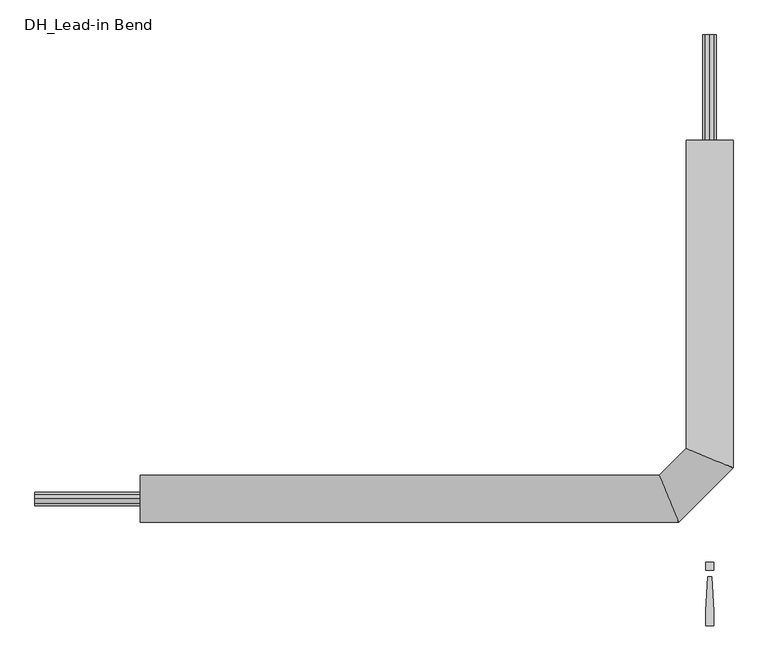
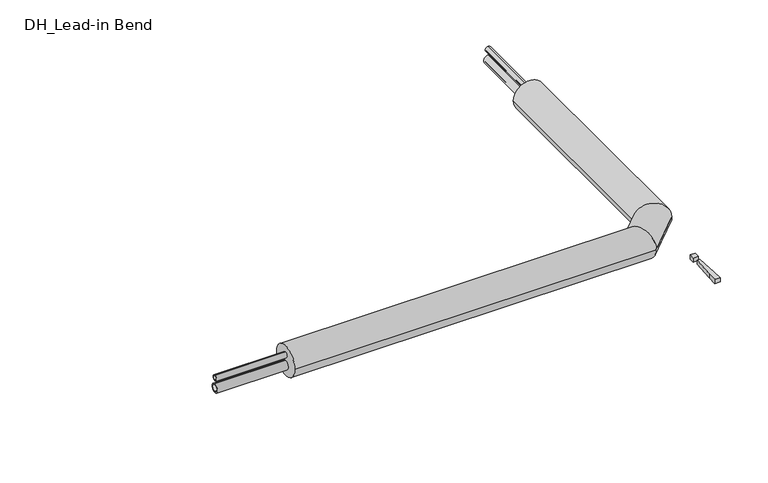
"""IFC4 building model written with IfcOpenShell, lengths in millimetres: pipe fitting geometry, DH_Lead-in Bend : RVT/RVX/RTX DUO 7.4 DW Horizontal."""

import ifcopenshell
import ifcopenshell.guid

model = None  # the IFC model being written
_history = None  # IfcOwnerHistory: only IFC2X3 demands one
_inside = {}  # id of a spatial element -> (the spatial element, [elements in it])
_under = {}  # id of a project, library or spatial element -> (it, [spatial elements below it])
_declared = {}  # id of a project -> (the project, [libraries it declares])
_typed = {}  # id of a type object -> (the type object, [elements of that type])
_made_of = {}  # id of a material, layer set ... -> (it, [elements and type objects made of it])


def new_model(schema):
    """Start an empty IFC model of exactly this schema.

    Asked for "IFC4X3", IfcOpenShell would pick the latest addendum, in which some entities
    have other attributes; the version numbers below select the first issue.
    IFC2X3 requires an IfcOwnerHistory on every rooted entity: one is made here for all.
    """
    global model, _history
    if schema == "IFC4X3":
        model = ifcopenshell.file(schema_version=(4, 3, 0, 0))
    else:
        model = ifcopenshell.file(schema=schema)
    _inside.clear()
    _under.clear()
    _declared.clear()
    _typed.clear()
    _made_of.clear()
    _history = None
    if model.schema == "IFC2X3":
        org = make("IfcOrganization", Name="unknown")
        user = make(
            "IfcPersonAndOrganization",
            ThePerson=make("IfcPerson", FamilyName="unknown"),
            TheOrganization=org,
        )
        app = make(
            "IfcApplication",
            ApplicationDeveloper=org,
            Version="unknown",
            ApplicationFullName="unknown",
            ApplicationIdentifier="unknown",
        )
        _history = make(
            "IfcOwnerHistory",
            OwningUser=user,
            OwningApplication=app,
            ChangeAction="ADDED",
            CreationDate=0,
        )
    return model


def make(cls, **values):
    """One entity of the class cls with the attributes given. An attribute that is None is left unset."""
    return model.create_entity(
        cls, **{name: value for name, value in values.items() if value is not None}
    )


def rooted(cls, **values):
    """An entity with a GlobalId (a new one), such as an element, a storey or a relation."""
    return make(cls, GlobalId=ifcopenshell.guid.new(), OwnerHistory=_history, **values)


def si_unit(unit_type, name, prefix=None):
    """IfcSIUnit, for example si_unit("LENGTHUNIT", "METRE", prefix="MILLI")."""
    return make("IfcSIUnit", UnitType=unit_type, Prefix=prefix, Name=name)


def assignment(units):
    """IfcUnitAssignment: the units of a project."""
    return None if units is None else make("IfcUnitAssignment", Units=units)


def point(xyz):
    """IfcCartesianPoint."""
    return None if xyz is None else make("IfcCartesianPoint", Coordinates=xyz)


def direction(xyz):
    """IfcDirection."""
    return None if xyz is None else make("IfcDirection", DirectionRatios=xyz)


def frame(location, z_axis=None, x_axis=None):
    """IfcAxis2Placement3D, a coordinate frame: its origin and axes. An axis left out is left unset."""
    return make(
        "IfcAxis2Placement3D",
        Location=point(location),
        Axis=direction(z_axis),
        RefDirection=direction(x_axis),
    )


def frame_2d(location, x_axis=None):
    """IfcAxis2Placement2D, a coordinate frame in the plane: its origin and x axis."""
    return make(
        "IfcAxis2Placement2D", Location=point(location), RefDirection=direction(x_axis)
    )


def origin():
    """The frame at (0, 0, 0) with its axes left unset."""
    return frame((0.0, 0.0, 0.0))


def origin_with_axes():
    """The frame at (0, 0, 0) with the z axis (0, 0, 1) and the x axis (1, 0, 0) written out."""
    return frame((0.0, 0.0, 0.0), z_axis=(0.0, 0.0, 1.0), x_axis=(1.0, 0.0, 0.0))


def place(relative_to, where):
    """IfcLocalPlacement: puts the frame where relative to a parent placement (None: the world)."""
    return make(
        "IfcLocalPlacement", PlacementRelTo=relative_to, RelativePlacement=where
    )


def context(
    kind, dimensions, precision=None, world=None, true_north=None, identifier=None
):
    """IfcGeometricRepresentationContext, for example the 3D "Model" context."""
    return make(
        "IfcGeometricRepresentationContext",
        ContextIdentifier=identifier,
        ContextType=kind,
        CoordinateSpaceDimension=dimensions,
        Precision=precision,
        WorldCoordinateSystem=world,
        TrueNorth=true_north,
    )


def project(units=None, contexts=None):
    """IfcProject with its units and contexts."""
    return rooted(
        "IfcProject",
        Name="project",
        RepresentationContexts=contexts,
        UnitsInContext=assignment(units),
    )


def spatial(cls, under=None, at=None, **own):
    """A site, building, storey or space (cls), placed at a placement, below another one or the project."""
    s = rooted(cls, ObjectPlacement=at, **own)
    if under is not None:
        _under.setdefault(under.id(), (under, []))[1].append(s)
    return s


def polyline(points):
    """IfcPolyline through the points."""
    return make("IfcPolyline", Points=[point(p) for p in points])


def circle_curve(where, radius):
    """IfcCircle in the frame where."""
    return make("IfcCircle", Position=where, Radius=radius)


def ellipse_curve(where, semi_axis1, semi_axis2):
    """IfcEllipse in the frame where."""
    return make(
        "IfcEllipse", Position=where, SemiAxis1=semi_axis1, SemiAxis2=semi_axis2
    )


def trimmed(basis, trim1, trim2, sense, master):
    """IfcTrimmedCurve: the piece of a basis curve between two trims."""
    return make(
        "IfcTrimmedCurve",
        BasisCurve=basis,
        Trim1=trim1,
        Trim2=trim2,
        SenseAgreement=sense,
        MasterRepresentation=master,
    )


def segment(curve, same_sense, transition):
    """IfcCompositeCurveSegment."""
    return make(
        "IfcCompositeCurveSegment",
        Transition=transition,
        SameSense=same_sense,
        ParentCurve=curve,
    )


def composite_curve(segments, self_intersect=None):
    """IfcCompositeCurve: segments joined end to end."""
    return make("IfcCompositeCurve", Segments=segments, SelfIntersect=self_intersect)


def outline(outer, holes=None, kind="AREA"):
    """IfcArbitraryClosedProfileDef: a profile drawn as a closed curve; with holes, ...WithVoids."""
    if holes is None:
        return make("IfcArbitraryClosedProfileDef", ProfileType=kind, OuterCurve=outer)
    return make(
        "IfcArbitraryProfileDefWithVoids",
        ProfileType=kind,
        OuterCurve=outer,
        InnerCurves=holes,
    )


def extrude(swept, where, along, depth):
    """IfcExtrudedAreaSolid: the profile swept, set in the frame where, extruded along a direction by depth."""
    return make(
        "IfcExtrudedAreaSolid",
        SweptArea=swept,
        Position=where,
        ExtrudedDirection=direction(along),
        Depth=depth,
    )


def shape(context_of_items, identifier, shape_type, items):
    """IfcShapeRepresentation: the items that make up one representation, for example the "Body"."""
    return make(
        "IfcShapeRepresentation",
        ContextOfItems=context_of_items,
        RepresentationIdentifier=identifier,
        RepresentationType=shape_type,
        Items=items,
    )


def source(mapping_origin, context_of_items, identifier, shape_type, items):
    """IfcRepresentationMap: a shape defined once, which mapped items show again and again."""
    return make(
        "IfcRepresentationMap",
        MappingOrigin=mapping_origin,
        MappedRepresentation=shape(context_of_items, identifier, shape_type, items),
    )


def transform(
    local_origin,
    x_axis=None,
    y_axis=None,
    z_axis=None,
    scale=None,
    scale2=None,
    scale3=None,
    uniform=True,
):
    """IfcCartesianTransformationOperator3D, or its non-uniform kind. x_axis, y_axis, z_axis: its Axis1, 2, 3."""
    if uniform:
        return make(
            "IfcCartesianTransformationOperator3D",
            Axis1=direction(x_axis),
            Axis2=direction(y_axis),
            LocalOrigin=point(local_origin),
            Scale=scale,
            Axis3=direction(z_axis),
        )
    return make(
        "IfcCartesianTransformationOperator3DnonUniform",
        Axis1=direction(x_axis),
        Axis2=direction(y_axis),
        LocalOrigin=point(local_origin),
        Scale=scale,
        Axis3=direction(z_axis),
        Scale2=scale2,
        Scale3=scale3,
    )


def mapped(mapping_source, mapping_target):
    """IfcMappedItem: shows the shape of a source again, moved by a transform."""
    return make(
        "IfcMappedItem", MappingSource=mapping_source, MappingTarget=mapping_target
    )


def made_of(thing, what):
    """Note that an element or type object is made of a material, layer set ...; save() writes the relation."""
    if what is not None:
        _made_of.setdefault(what.id(), (what, []))[1].append(thing)
    return thing


def element(
    cls,
    number,
    at=None,
    inside=None,
    cuts=None,
    type_object=None,
    material=None,
    context=None,
    identifier="Body",
    shape_type=None,
    held_by="IfcProductDefinitionShape",
    body=None,
    shapes=None,
    **own,
):
    """One element of the class cls, such as IfcWall. Its Tag is "e" and its number.

    at: its placement. inside: the storey or other place that contains it. cuts: it is an
    opening in that element (IfcRelVoidsElement). A single representation is given by context,
    identifier, shape_type and body (its items); several are given by shapes. held_by: the class
    of the entity that holds the representations. save() writes the other relations.
    """
    e = rooted(cls, Tag="e%d" % number, ObjectPlacement=at, **own)
    if body is not None:
        shapes = [shape(context, identifier, shape_type, body)]
    if shapes is not None:
        e.Representation = make(held_by, Representations=shapes)
    if inside is not None:
        _inside.setdefault(inside.id(), (inside, []))[1].append(e)
    if cuts is not None:
        rooted(
            "IfcRelVoidsElement", RelatingBuildingElement=cuts, RelatedOpeningElement=e
        )
    if type_object is not None:
        _typed.setdefault(type_object.id(), (type_object, []))[1].append(e)
    return made_of(e, material)


def aggregate(whole, parts):
    """IfcRelAggregates: a whole, such as a stair, and the parts it consists of."""
    return rooted("IfcRelAggregates", RelatingObject=whole, RelatedObjects=parts)


def save(model, path):
    """Write the relations noted so far, then the file.

    IfcRelAggregates (storeys below a building ...), IfcRelContainedInSpatialStructure (elements
    in a storey), IfcRelDefinesByType, IfcRelAssociatesMaterial and IfcRelDeclares: one each for
    every whole, place, type object, material and project.
    """
    for whole, parts in _under.values():
        aggregate(whole, parts)
    for where, things in _inside.values():
        rooted(
            "IfcRelContainedInSpatialStructure",
            RelatedElements=things,
            RelatingStructure=where,
        )
    for kind, things in _typed.values():
        rooted("IfcRelDefinesByType", RelatedObjects=things, RelatingType=kind)
    for what, things in _made_of.values():
        rooted("IfcRelAssociatesMaterial", RelatedObjects=things, RelatingMaterial=what)
    for by, libraries in _declared.values():
        rooted("IfcRelDeclares", RelatingContext=by, RelatedDefinitions=libraries)
    model.write(path)


def plane_surface(at):
    """IfcPlane: the flat surface through the origin of the frame at, square to its z axis."""
    return make("IfcPlane", Position=at)


def cylinder_surface(at, radius):
    """IfcCylindricalSurface: all points at the distance radius from the z axis of the frame at."""
    return make("IfcCylindricalSurface", Position=at, Radius=radius)


def advanced_brep(points, edges, surfaces, faces):
    """IfcAdvancedBrep: a solid bounded by faces that lie on surfaces and meet in shared edges.

    An edge is (start, end): straight between two places in points (the first is 0);
    or (start, end, curve); or (start, end, curve, False) where it runs against its curve.
    A face is (place in surfaces, loops), or (place, loops, False) where it looks against
    its surface's normal. A loop lists edges by number (the first is 1), with a minus sign
    where the edge is run from its end to its start. The first loop is the outer one.
    """
    corners = [point(p) for p in points]
    vertices = [make("IfcVertexPoint", VertexGeometry=c) for c in corners]
    made = []
    for start, end, *more in edges:
        made.append(
            make(
                "IfcEdgeCurve",
                EdgeStart=vertices[start],
                EdgeEnd=vertices[end],
                EdgeGeometry=more[0] if more else make("IfcPolyline", Points=[corners[start], corners[end]]),
                SameSense=more[1] if len(more) > 1 else True,
            )
        )
    hull = []
    for where, loops, *sense in faces:
        bounds = []
        for j, loop in enumerate(loops):
            ring = [make("IfcOrientedEdge", EdgeElement=made[abs(k) - 1], Orientation=k > 0) for k in loop]
            bounds.append(
                make(
                    "IfcFaceOuterBound" if j == 0 else "IfcFaceBound",
                    Bound=make("IfcEdgeLoop", EdgeList=ring),
                    Orientation=True,
                )
            )
        hull.append(make("IfcAdvancedFace", Bounds=bounds, FaceSurface=surfaces[where], SameSense=sense[0] if sense else True))
    return make("IfcAdvancedBrep", Outer=make("IfcClosedShell", CfsFaces=hull))


def dh_lead_in_bend_81963ebd(model_context):
    return source(origin(), model_context, "Body", "SolidModel", [
        extrude(outline(composite_curve([segment(trimmed(circle_curve(frame_2d((0.0, -16.0)), 16.0), [point((0.0, 0.0))], [point((0.0, -32.0))], False, "CARTESIAN"), True, "CONTINUOUS"), segment(trimmed(circle_curve(frame_2d((0.0, -16.0)), 16.0), [point((0.0, -32.0))], [point((0.0, 0.0))], False, "CARTESIAN"), True, "CONTINUOUS")], self_intersect=False), holes=[composite_curve([segment(trimmed(circle_curve(frame_2d((0.0, -16.0)), 11.6), [point((0.0, -4.4))], [point((0.0, -27.6))], True, "CARTESIAN"), True, "CONTINUOUS"), segment(trimmed(circle_curve(frame_2d((0.0, -16.0)), 11.6), [point((0.0, -27.6))], [point((0.0, -4.4))], True, "CARTESIAN"), True, "CONTINUOUS")], self_intersect=False)]), frame((-1600.0, 0.0, 0.0), z_axis=(1.0, 0.0, 0.0), x_axis=(0.0, 1.0, 0.0)), (0.0, 0.0, 1.0), 250.0),
        advanced_brep(
        [(-1350.0, -55.5, 0.0), (-1350.0, 55.5, 0.0), (-73.5111473, -55.5, 0.0), (-119.4888527, 55.5, 0.0), (55.5, 850.0, 0.0), (-55.5, 850.0, 0.0), (-55.5, 119.4888527, 0.0), (55.5, 73.5111473, 0.0)],
        [
            (0, 1, circle_curve(frame((-1350.0, 0.0, 0.0), z_axis=(-1.0, 0.0, 0.0), x_axis=(0.0, 1.0, 0.0)), 55.5)),
            (1, 0, circle_curve(frame((-1350.0, 0.0, 0.0), z_axis=(-1.0, 0.0, 0.0), x_axis=(0.0, 1.0, 0.0)), 55.5)),
            (0, 2),
            (2, 3, ellipse_curve(frame((-96.5, 0.0, 0.0), z_axis=(-0.9238795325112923, -0.38268343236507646, 0.0), x_axis=(-0.38268343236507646, 0.9238795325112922, 0.0)), 60.0727671, 55.5)),
            (3, 1),
            (3, 2, ellipse_curve(frame((-96.5, 0.0, 0.0), z_axis=(-0.9238795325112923, -0.38268343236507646, 0.0), x_axis=(-0.38268343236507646, 0.9238795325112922, 0.0)), 60.0727671, 55.5)),
            (4, 5, circle_curve(frame((0.0, 850.0, 0.0), z_axis=(0.0, 1.0, 0.0), x_axis=(-1.0, 0.0, 0.0)), 55.5)),
            (5, 4, circle_curve(frame((0.0, 850.0, 0.0), z_axis=(0.0, 1.0, 0.0), x_axis=(-1.0, 0.0, 0.0)), 55.5)),
            (6, 7, ellipse_curve(frame((0.0, 96.5, 0.0), z_axis=(0.3826834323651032, 0.9238795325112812, 0.0), x_axis=(0.9238795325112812, -0.3826834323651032, 0.0)), 60.0727671, 55.5)),
            (7, 4),
            (5, 6),
            (7, 6, ellipse_curve(frame((0.0, 96.5, 0.0), z_axis=(0.3826834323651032, 0.9238795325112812, 0.0), x_axis=(0.9238795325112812, -0.3826834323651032, 0.0)), 60.0727671, 55.5)),
            (2, 7),
            (6, 3),
        ],
        [
            plane_surface(frame((-1350.0, 0.0, 0.0), z_axis=(-1.0, 0.0, 0.0), x_axis=(0.0, 0.0, 1.0))),
            cylinder_surface(frame((-1350.0, 0.0, 0.0), z_axis=(-1.0, 0.0, 0.0), x_axis=(0.0, 1.0, 0.0)), 55.5),
            plane_surface(frame((0.0, 850.0, 0.0), z_axis=(0.0, 1.0, 0.0), x_axis=(0.0, 0.0, 1.0))),
            cylinder_surface(frame((0.0, 96.5, 0.0), z_axis=(0.0, -1.0, 0.0), x_axis=(-1.0, 0.0, 0.0)), 55.5),
            cylinder_surface(frame((-96.5, 0.0, 0.0), z_axis=(-0.707106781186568, -0.7071067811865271, 0.0), x_axis=(-0.7071067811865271, 0.707106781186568, 0.0)), 55.5),
        ],
        [
            (0, [[1, 2]]),
            (1, [[-1, 3, 4, 5]]),
            (1, [[-2, -5, 6, -3]]),
            (2, [[7, 8]]),
            (3, [[9, 10, -8, 11]]),
            (3, [[12, -11, -7, -10]]),
            (4, [[-4, 13, -9, 14]]),
            (4, [[-6, -14, -12, -13]]),
        ],
    ),
        extrude(outline(composite_curve([segment(trimmed(circle_curve(frame_2d((22.0, 0.0)), 10.0), [point((12.0, 0.0))], [point((32.0, 0.0))], False, "CARTESIAN"), True, "CONTINUOUS"), segment(trimmed(circle_curve(frame_2d((22.0, 0.0)), 10.0), [point((32.0, 0.0))], [point((12.0, 0.0))], False, "CARTESIAN"), True, "CONTINUOUS")], self_intersect=False), holes=[composite_curve([segment(trimmed(circle_curve(frame_2d((22.0, 0.0)), 7.2), [point((14.8, 0.0))], [point((29.2, 0.0))], True, "CARTESIAN"), True, "CONTINUOUS"), segment(trimmed(circle_curve(frame_2d((22.0, 0.0)), 7.2), [point((29.2, 0.0))], [point((14.8, 0.0))], True, "CARTESIAN"), True, "CONTINUOUS")], self_intersect=False)]), frame((0.0, 850.0, 0.0), z_axis=(0.0, 1.0, 0.0), x_axis=(0.0, 0.0, 1.0)), (0.0, 0.0, 1.0), 250.0),
        extrude(outline(composite_curve([segment(trimmed(circle_curve(frame_2d((0.0, 22.0)), 10.0), [point((0.0, 12.0))], [point((0.0, 32.0))], False, "CARTESIAN"), True, "CONTINUOUS"), segment(trimmed(circle_curve(frame_2d((0.0, 22.0)), 10.0), [point((0.0, 32.0))], [point((0.0, 12.0))], False, "CARTESIAN"), True, "CONTINUOUS")], self_intersect=False), holes=[composite_curve([segment(trimmed(circle_curve(frame_2d((0.0, 22.0)), 7.2), [point((0.0, 14.8))], [point((0.0, 29.2))], True, "CARTESIAN"), True, "CONTINUOUS"), segment(trimmed(circle_curve(frame_2d((0.0, 22.0)), 7.2), [point((0.0, 29.2))], [point((0.0, 14.8))], True, "CARTESIAN"), True, "CONTINUOUS")], self_intersect=False)]), frame((-1600.0, 0.0, 0.0), z_axis=(1.0, 0.0, 0.0), x_axis=(0.0, 1.0, 0.0)), (0.0, 0.0, 1.0), 250.0),
        extrude(outline(composite_curve([segment(trimmed(circle_curve(frame_2d((-16.0, 0.0)), 16.0), [point((0.0, 0.0))], [point((-32.0, 0.0))], False, "CARTESIAN"), True, "CONTINUOUS"), segment(trimmed(circle_curve(frame_2d((-16.0, 0.0)), 16.0), [point((-32.0, 0.0))], [point((0.0, 0.0))], False, "CARTESIAN"), True, "CONTINUOUS")], self_intersect=False), holes=[composite_curve([segment(trimmed(circle_curve(frame_2d((-16.0, 0.0)), 11.6), [point((-4.4, 0.0))], [point((-27.6, 0.0))], True, "CARTESIAN"), True, "CONTINUOUS"), segment(trimmed(circle_curve(frame_2d((-16.0, 0.0)), 11.6), [point((-27.6, 0.0))], [point((-4.4, 0.0))], True, "CARTESIAN"), True, "CONTINUOUS")], self_intersect=False)]), frame((0.0, 850.0, 0.0), z_axis=(0.0, 1.0, 0.0), x_axis=(0.0, 0.0, 1.0)), (0.0, 0.0, 1.0), 250.0),
        extrude(outline(polyline([(4.7088895, -185.3166715), (9.4177791, -266.6553807), (9.4177791, -300.6844652), (-9.4177791, -300.6844652), (-9.4177791, -266.6553807), (-4.7088895, -185.3166715), (4.7088895, -185.3166715)])), origin_with_axes(), (0.0, 0.0, 1.0), 15.0),
        extrude(outline(polyline([(9.4177791, -150.0), (9.4177791, -168.8355582), (-9.4177791, -168.8355582), (-9.4177791, -150.0), (9.4177791, -150.0)])), origin_with_axes(), (0.0, 0.0, 1.0), 15.0),
    ])


if __name__ == "__main__":
    model = new_model("IFC4")
    model_context = context("Model", 3, world=origin())
    ifc_project = project(units=[si_unit("LENGTHUNIT", "METRE", prefix="MILLI")], contexts=[model_context])
    site = spatial("IfcSite", under=ifc_project)
    building = spatial("IfcBuilding", under=site)
    placement = place(None, origin())
    dh_lead_in_bend_shape = dh_lead_in_bend_81963ebd(model_context)
    element("IfcPipeFitting", 1, ObjectType="DH_Lead-in Bend : RVT/RVX/RTX DUO 7.4 DW Horizontal", at=placement, inside=building, context=model_context, shape_type="MappedRepresentation", body=[
        mapped(dh_lead_in_bend_shape, transform((0.0, 0.0, 0.0), x_axis=(1.0, 0.0, 0.0), y_axis=(0.0, 1.0, 0.0), z_axis=(0.0, 0.0, 1.0))),
    ])
    save(model, "model.ifc")
